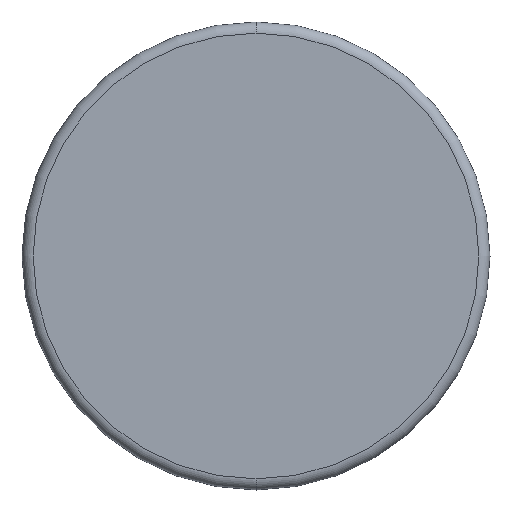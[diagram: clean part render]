
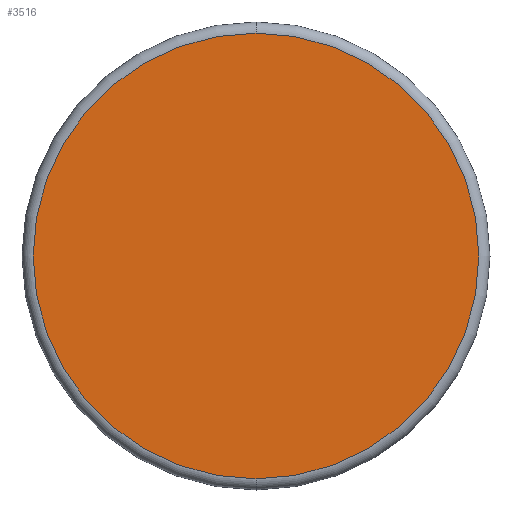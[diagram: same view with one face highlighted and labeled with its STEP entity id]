
A CAD part, front view. The second image highlights one B-rep face of the part: STEP entity #3516.
In plain terms, the highlighted planar face has unit normal (0, -1, 0).
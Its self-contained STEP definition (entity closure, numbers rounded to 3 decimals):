
#181 = EDGE_CURVE ( 'NONE', #837, #205, #194, .T. ) ;
#194 = CIRCLE ( 'NONE', #681, 15. ) ;
#205 = VERTEX_POINT ( 'NONE', #2979 ) ;
#294 = PLANE ( 'NONE',  #572 ) ;
#451 = EDGE_CURVE ( 'NONE', #205, #837, #796, .T. ) ;
#572 = AXIS2_PLACEMENT_3D ( 'NONE', #848, #1995, #2884 ) ;
#618 = AXIS2_PLACEMENT_3D ( 'NONE', #662, #2369, #2944 ) ;
#662 = CARTESIAN_POINT ( 'NONE',  ( 0., 0., 0. ) ) ;
#681 = AXIS2_PLACEMENT_3D ( 'NONE', #3451, #882, #2014 ) ;
#796 = CIRCLE ( 'NONE', #618, 15. ) ;
#803 = CARTESIAN_POINT ( 'NONE',  ( 0., 0., 15. ) ) ;
#837 = VERTEX_POINT ( 'NONE', #803 ) ;
#848 = CARTESIAN_POINT ( 'NONE',  ( 0., 0., 0. ) ) ;
#882 = DIRECTION ( 'NONE',  ( 0., 1., 0. ) ) ;
#1869 = ORIENTED_EDGE ( 'NONE', *, *, #451, .F. ) ;
#1995 = DIRECTION ( 'NONE',  ( 0., 1., 0. ) ) ;
#2014 = DIRECTION ( 'NONE',  ( 0., 0., -1. ) ) ;
#2120 = ORIENTED_EDGE ( 'NONE', *, *, #181, .F. ) ;
#2369 = DIRECTION ( 'NONE',  ( 0., 1., 0. ) ) ;
#2445 = EDGE_LOOP ( 'NONE', ( #1869, #2120 ) ) ;
#2884 = DIRECTION ( 'NONE',  ( 0., 0., 1. ) ) ;
#2944 = DIRECTION ( 'NONE',  ( 0., 0., -1. ) ) ;
#2979 = CARTESIAN_POINT ( 'NONE',  ( 0., 0., -15. ) ) ;
#3162 = FACE_OUTER_BOUND ( 'NONE', #2445, .T. ) ;
#3451 = CARTESIAN_POINT ( 'NONE',  ( 0., 0., 0. ) ) ;
#3516 = ADVANCED_FACE ( 'NONE', ( #3162 ), #294, .F. ) ;
